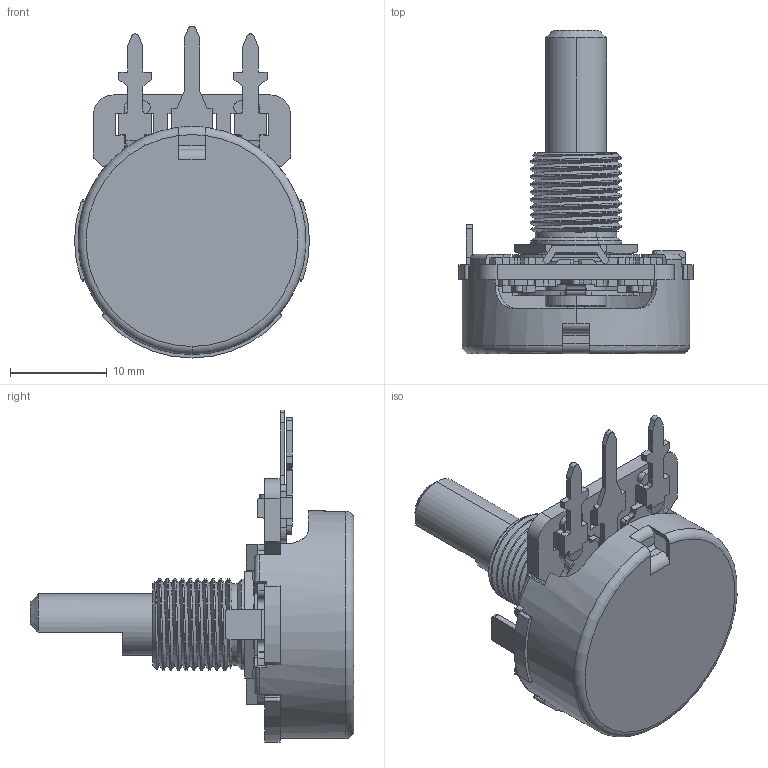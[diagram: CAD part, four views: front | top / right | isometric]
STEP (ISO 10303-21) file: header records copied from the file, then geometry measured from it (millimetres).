
FILE_DESCRIPTION (( 'STEP AP214' ), '1' );
FILE_NAME ('450X328F504B1A1.STEP', '2019-05-27T01:10:39', ( '' ), ( '' ), 'SwSTEP 2.0', 'SolidWorks 2019', '' );
FILE_SCHEMA (( 'AUTOMOTIVE_DESIGN' ));
Length unit declared in the file: millimetre
Products named in the file (10): 450 element; 450X328F504B1A1; 450F-6; P45Q_Flat Bottom_45Q54 withFenderTradeMark_NewDetentSetting_07102012; 450S-EF-11620-28; 450B-6; 450D-5 for X450AEDF-2; X450AEDF-2; 45C-2T-Left lug; 450A-104G
Assembly tree (10 placements, depth 3):
  450X328F504B1A1
    P45Q_Flat Bottom_45Q54 withFenderTradeMark_NewDetentSetting_07102012
    45C-2T-Left lug
    450B-6
    450S-EF-11620-28
    X450AEDF-2
      450A-104G
      450 element
      450F-6  x2
      450D-5 for X450AEDF-2
Bounding box: 24.33 x 33.53 x 34.39 mm (x, y, z)
Volume: 2831.9 mm3; surface area: 6630.2 mm2
Topology: 9 solids, 9 shells, 642 faces, 1790 edges, 1167 vertices
Faces by surface type: plane 386, cylinder 214, cone 22, torus 18, bspline 2
Entity records: 20722 total; most frequent: CARTESIAN_POINT 5072, ORIENTED_EDGE 3264, DIRECTION 3164, EDGE_CURVE 1632, VERTEX_POINT 1066, AXIS2_PLACEMENT_3D 1055, LINE 1054, VECTOR 1054
